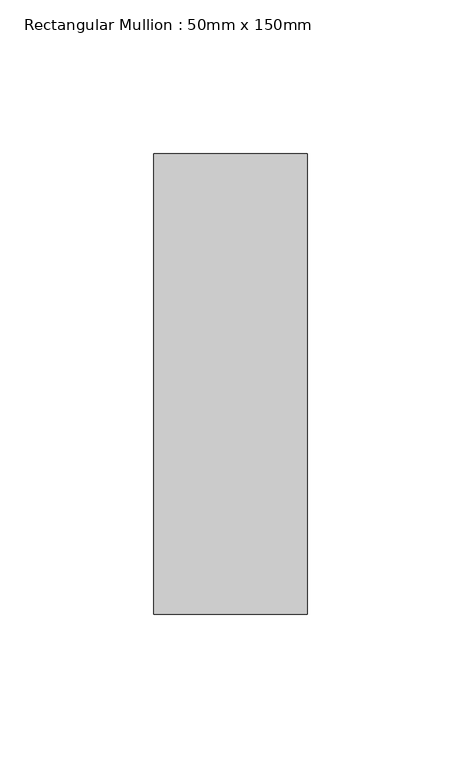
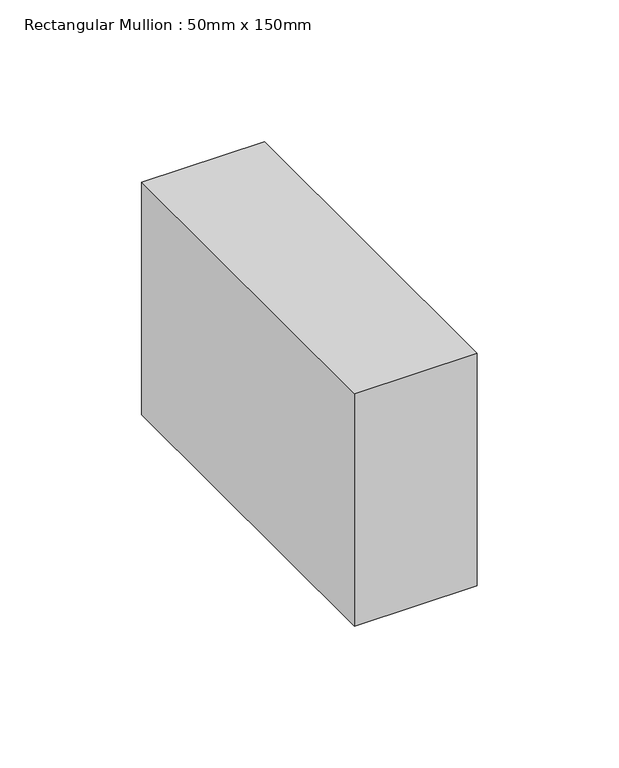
"""IFC4 building model written with IfcOpenShell, lengths in millimetres: member geometry, Rectangular Mullion : 50mm x 150mm."""

from ifc_helpers import new_model, si_unit, frame, origin, place, context, project, spatial, polyline, outline, extrude, source, transform, mapped, element, save


def rectangular_mullion_50mm_x_150mm_550cda47(model_context):
    return source(origin(), model_context, "Body", "SweptSolid", [
        extrude(outline(polyline([(0.0, 75.0), (0.0, -75.0), (-50.0, -75.0), (-50.0, 75.0), (0.0, 75.0)])), frame((0.0, 0.0, -100.0), z_axis=(0.0, 0.0, 1.0), x_axis=(1.0, 0.0, 0.0)), (0.0, 0.0, 1.0), 100.0),
    ])


if __name__ == "__main__":
    model = new_model("IFC4")
    model_context = context("Model", 3, world=origin())
    ifc_project = project(units=[si_unit("LENGTHUNIT", "METRE", prefix="MILLI")], contexts=[model_context])
    site = spatial("IfcSite", under=ifc_project)
    building = spatial("IfcBuilding", under=site)
    placement = place(None, origin())
    rectangular_mullion_50mm_x_150mm_shape = rectangular_mullion_50mm_x_150mm_550cda47(model_context)
    element("IfcMember", 1, ObjectType="Rectangular Mullion : 50mm x 150mm", at=placement, inside=building, context=model_context, shape_type="MappedRepresentation", body=[
        mapped(rectangular_mullion_50mm_x_150mm_shape, transform((0.0, 0.0, 0.0), x_axis=(1.0, 0.0, 0.0), y_axis=(0.0, 1.0, 0.0), z_axis=(0.0, 0.0, 1.0))),
    ])
    save(model, "model.ifc")
